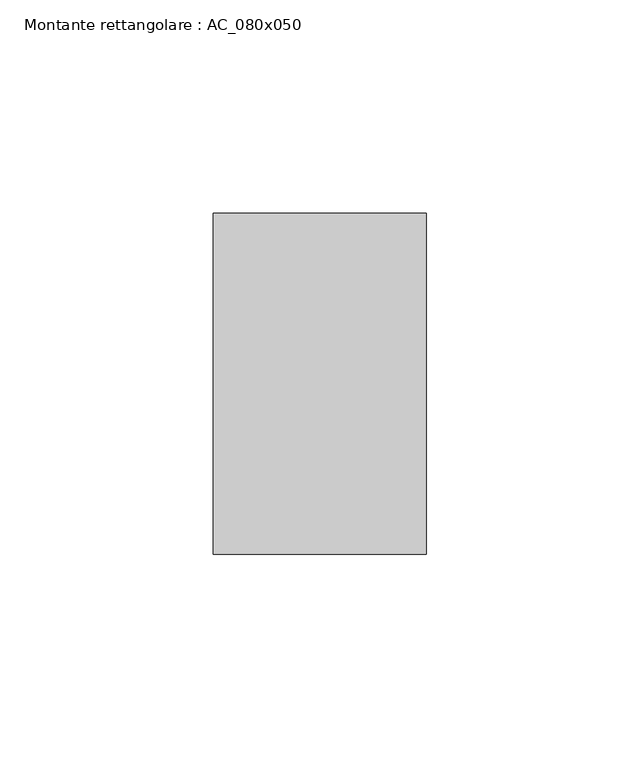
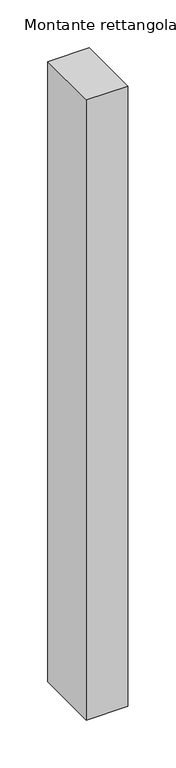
"""IFC4 building model written with IfcOpenShell, lengths in millimetres: member geometry, Montante rettangolare : AC_080x050."""

import ifcopenshell
import ifcopenshell.guid

model = None  # the IFC model being written
_history = None  # IfcOwnerHistory: only IFC2X3 demands one
_inside = {}  # id of a spatial element -> (the spatial element, [elements in it])
_under = {}  # id of a project, library or spatial element -> (it, [spatial elements below it])
_declared = {}  # id of a project -> (the project, [libraries it declares])
_typed = {}  # id of a type object -> (the type object, [elements of that type])
_made_of = {}  # id of a material, layer set ... -> (it, [elements and type objects made of it])


def new_model(schema):
    """Start an empty IFC model of exactly this schema.

    Asked for "IFC4X3", IfcOpenShell would pick the latest addendum, in which some entities
    have other attributes; the version numbers below select the first issue.
    IFC2X3 requires an IfcOwnerHistory on every rooted entity: one is made here for all.
    """
    global model, _history
    if schema == "IFC4X3":
        model = ifcopenshell.file(schema_version=(4, 3, 0, 0))
    else:
        model = ifcopenshell.file(schema=schema)
    _inside.clear()
    _under.clear()
    _declared.clear()
    _typed.clear()
    _made_of.clear()
    _history = None
    if model.schema == "IFC2X3":
        org = make("IfcOrganization", Name="unknown")
        user = make(
            "IfcPersonAndOrganization",
            ThePerson=make("IfcPerson", FamilyName="unknown"),
            TheOrganization=org,
        )
        app = make(
            "IfcApplication",
            ApplicationDeveloper=org,
            Version="unknown",
            ApplicationFullName="unknown",
            ApplicationIdentifier="unknown",
        )
        _history = make(
            "IfcOwnerHistory",
            OwningUser=user,
            OwningApplication=app,
            ChangeAction="ADDED",
            CreationDate=0,
        )
    return model


def make(cls, **values):
    """One entity of the class cls with the attributes given. An attribute that is None is left unset."""
    return model.create_entity(
        cls, **{name: value for name, value in values.items() if value is not None}
    )


def rooted(cls, **values):
    """An entity with a GlobalId (a new one), such as an element, a storey or a relation."""
    return make(cls, GlobalId=ifcopenshell.guid.new(), OwnerHistory=_history, **values)


def si_unit(unit_type, name, prefix=None):
    """IfcSIUnit, for example si_unit("LENGTHUNIT", "METRE", prefix="MILLI")."""
    return make("IfcSIUnit", UnitType=unit_type, Prefix=prefix, Name=name)


def assignment(units):
    """IfcUnitAssignment: the units of a project."""
    return None if units is None else make("IfcUnitAssignment", Units=units)


def point(xyz):
    """IfcCartesianPoint."""
    return None if xyz is None else make("IfcCartesianPoint", Coordinates=xyz)


def direction(xyz):
    """IfcDirection."""
    return None if xyz is None else make("IfcDirection", DirectionRatios=xyz)


def frame(location, z_axis=None, x_axis=None):
    """IfcAxis2Placement3D, a coordinate frame: its origin and axes. An axis left out is left unset."""
    return make(
        "IfcAxis2Placement3D",
        Location=point(location),
        Axis=direction(z_axis),
        RefDirection=direction(x_axis),
    )


def origin():
    """The frame at (0, 0, 0) with its axes left unset."""
    return frame((0.0, 0.0, 0.0))


def place(relative_to, where):
    """IfcLocalPlacement: puts the frame where relative to a parent placement (None: the world)."""
    return make(
        "IfcLocalPlacement", PlacementRelTo=relative_to, RelativePlacement=where
    )


def context(
    kind, dimensions, precision=None, world=None, true_north=None, identifier=None
):
    """IfcGeometricRepresentationContext, for example the 3D "Model" context."""
    return make(
        "IfcGeometricRepresentationContext",
        ContextIdentifier=identifier,
        ContextType=kind,
        CoordinateSpaceDimension=dimensions,
        Precision=precision,
        WorldCoordinateSystem=world,
        TrueNorth=true_north,
    )


def project(units=None, contexts=None):
    """IfcProject with its units and contexts."""
    return rooted(
        "IfcProject",
        Name="project",
        RepresentationContexts=contexts,
        UnitsInContext=assignment(units),
    )


def spatial(cls, under=None, at=None, **own):
    """A site, building, storey or space (cls), placed at a placement, below another one or the project."""
    s = rooted(cls, ObjectPlacement=at, **own)
    if under is not None:
        _under.setdefault(under.id(), (under, []))[1].append(s)
    return s


def polyline(points):
    """IfcPolyline through the points."""
    return make("IfcPolyline", Points=[point(p) for p in points])


def outline(outer, holes=None, kind="AREA"):
    """IfcArbitraryClosedProfileDef: a profile drawn as a closed curve; with holes, ...WithVoids."""
    if holes is None:
        return make("IfcArbitraryClosedProfileDef", ProfileType=kind, OuterCurve=outer)
    return make(
        "IfcArbitraryProfileDefWithVoids",
        ProfileType=kind,
        OuterCurve=outer,
        InnerCurves=holes,
    )


def extrude(swept, where, along, depth):
    """IfcExtrudedAreaSolid: the profile swept, set in the frame where, extruded along a direction by depth."""
    return make(
        "IfcExtrudedAreaSolid",
        SweptArea=swept,
        Position=where,
        ExtrudedDirection=direction(along),
        Depth=depth,
    )


def shape(context_of_items, identifier, shape_type, items):
    """IfcShapeRepresentation: the items that make up one representation, for example the "Body"."""
    return make(
        "IfcShapeRepresentation",
        ContextOfItems=context_of_items,
        RepresentationIdentifier=identifier,
        RepresentationType=shape_type,
        Items=items,
    )


def source(mapping_origin, context_of_items, identifier, shape_type, items):
    """IfcRepresentationMap: a shape defined once, which mapped items show again and again."""
    return make(
        "IfcRepresentationMap",
        MappingOrigin=mapping_origin,
        MappedRepresentation=shape(context_of_items, identifier, shape_type, items),
    )


def transform(
    local_origin,
    x_axis=None,
    y_axis=None,
    z_axis=None,
    scale=None,
    scale2=None,
    scale3=None,
    uniform=True,
):
    """IfcCartesianTransformationOperator3D, or its non-uniform kind. x_axis, y_axis, z_axis: its Axis1, 2, 3."""
    if uniform:
        return make(
            "IfcCartesianTransformationOperator3D",
            Axis1=direction(x_axis),
            Axis2=direction(y_axis),
            LocalOrigin=point(local_origin),
            Scale=scale,
            Axis3=direction(z_axis),
        )
    return make(
        "IfcCartesianTransformationOperator3DnonUniform",
        Axis1=direction(x_axis),
        Axis2=direction(y_axis),
        LocalOrigin=point(local_origin),
        Scale=scale,
        Axis3=direction(z_axis),
        Scale2=scale2,
        Scale3=scale3,
    )


def mapped(mapping_source, mapping_target):
    """IfcMappedItem: shows the shape of a source again, moved by a transform."""
    return make(
        "IfcMappedItem", MappingSource=mapping_source, MappingTarget=mapping_target
    )


def made_of(thing, what):
    """Note that an element or type object is made of a material, layer set ...; save() writes the relation."""
    if what is not None:
        _made_of.setdefault(what.id(), (what, []))[1].append(thing)
    return thing


def element(
    cls,
    number,
    at=None,
    inside=None,
    cuts=None,
    type_object=None,
    material=None,
    context=None,
    identifier="Body",
    shape_type=None,
    held_by="IfcProductDefinitionShape",
    body=None,
    shapes=None,
    **own,
):
    """One element of the class cls, such as IfcWall. Its Tag is "e" and its number.

    at: its placement. inside: the storey or other place that contains it. cuts: it is an
    opening in that element (IfcRelVoidsElement). A single representation is given by context,
    identifier, shape_type and body (its items); several are given by shapes. held_by: the class
    of the entity that holds the representations. save() writes the other relations.
    """
    e = rooted(cls, Tag="e%d" % number, ObjectPlacement=at, **own)
    if body is not None:
        shapes = [shape(context, identifier, shape_type, body)]
    if shapes is not None:
        e.Representation = make(held_by, Representations=shapes)
    if inside is not None:
        _inside.setdefault(inside.id(), (inside, []))[1].append(e)
    if cuts is not None:
        rooted(
            "IfcRelVoidsElement", RelatingBuildingElement=cuts, RelatedOpeningElement=e
        )
    if type_object is not None:
        _typed.setdefault(type_object.id(), (type_object, []))[1].append(e)
    return made_of(e, material)


def aggregate(whole, parts):
    """IfcRelAggregates: a whole, such as a stair, and the parts it consists of."""
    return rooted("IfcRelAggregates", RelatingObject=whole, RelatedObjects=parts)


def save(model, path):
    """Write the relations noted so far, then the file.

    IfcRelAggregates (storeys below a building ...), IfcRelContainedInSpatialStructure (elements
    in a storey), IfcRelDefinesByType, IfcRelAssociatesMaterial and IfcRelDeclares: one each for
    every whole, place, type object, material and project.
    """
    for whole, parts in _under.values():
        aggregate(whole, parts)
    for where, things in _inside.values():
        rooted(
            "IfcRelContainedInSpatialStructure",
            RelatedElements=things,
            RelatingStructure=where,
        )
    for kind, things in _typed.values():
        rooted("IfcRelDefinesByType", RelatedObjects=things, RelatingType=kind)
    for what, things in _made_of.values():
        rooted("IfcRelAssociatesMaterial", RelatedObjects=things, RelatingMaterial=what)
    for by, libraries in _declared.values():
        rooted("IfcRelDeclares", RelatingContext=by, RelatedDefinitions=libraries)
    model.write(path)


def montante_rettangolare_ac_080x050_321416b7(model_context):
    return source(origin(), model_context, "Body", "SweptSolid", [
        extrude(outline(polyline([(0.0, 40.0), (0.0, -40.0), (-50.0, -40.0), (-50.0, 40.0), (0.0, 40.0)])), frame((0.0, 0.0, -790.0), z_axis=(0.0, 0.0, 1.0), x_axis=(1.0, 0.0, 0.0)), (0.0, 0.0, 1.0), 790.0),
    ])


if __name__ == "__main__":
    model = new_model("IFC4")
    model_context = context("Model", 3, world=origin())
    ifc_project = project(units=[si_unit("LENGTHUNIT", "METRE", prefix="MILLI")], contexts=[model_context])
    site = spatial("IfcSite", under=ifc_project)
    building = spatial("IfcBuilding", under=site)
    placement = place(None, origin())
    montante_rettangolare_ac_080x050_shape = montante_rettangolare_ac_080x050_321416b7(model_context)
    element("IfcMember", 1, ObjectType="Montante rettangolare : AC_080x050", at=placement, inside=building, context=model_context, shape_type="MappedRepresentation", body=[
        mapped(montante_rettangolare_ac_080x050_shape, transform((0.0, 0.0, 0.0), x_axis=(1.0, 0.0, 0.0), y_axis=(0.0, 1.0, 0.0), z_axis=(0.0, 0.0, 1.0))),
    ])
    save(model, "model.ifc")
